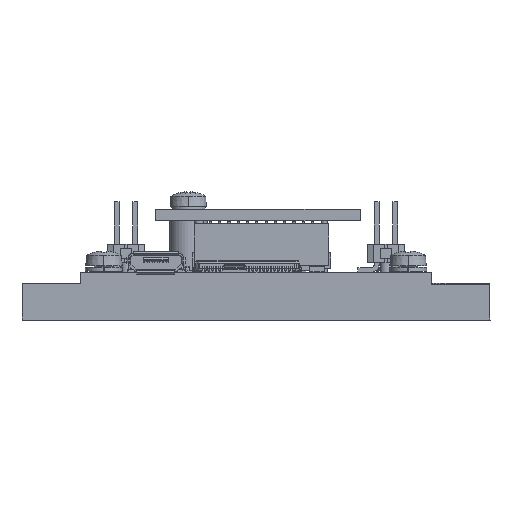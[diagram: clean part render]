
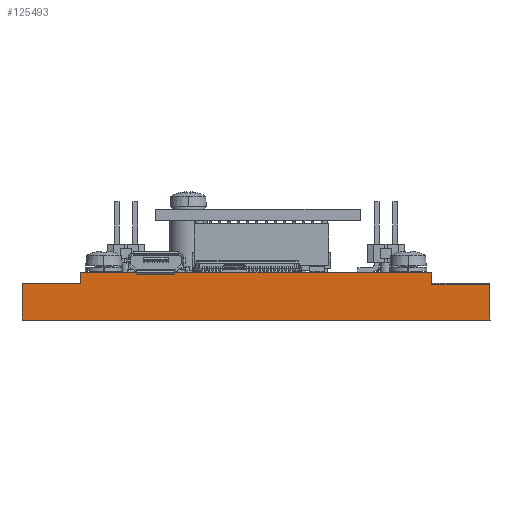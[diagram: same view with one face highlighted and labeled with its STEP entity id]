
A CAD part, front view. The second image highlights one B-rep face of the part: STEP entity #125493.
In plain terms, the highlighted planar face has unit normal (0, -1, 0).
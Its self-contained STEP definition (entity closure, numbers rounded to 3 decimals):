
#1660=DIRECTION('',(-1.,0.,0.));
#1661=VECTOR('',#1660,48.);
#1662=CARTESIAN_POINT('',(-62.976,-173.654,
-25.099));
#1663=LINE('',#1662,#1661);
#8793=DIRECTION('',(-1.,0.,0.));
#8794=VECTOR('',#8793,8.);
#8795=CARTESIAN_POINT('',(-110.976,-173.654,
-26.647));
#8796=LINE('',#8795,#8794);
#9049=DIRECTION('',(0.,0.,-1.));
#9050=VECTOR('',#9049,1.548);
#9051=CARTESIAN_POINT('',(-110.976,-173.654,
-25.099));
#9052=LINE('',#9051,#9050);
#9056=DIRECTION('',(0.,0.,-1.));
#9057=VECTOR('',#9056,4.9);
#9058=CARTESIAN_POINT('',(-54.976,-173.654,
-26.747));
#9059=LINE('',#9058,#9057);
#9063=DIRECTION('',(0.,0.,1.));
#9064=VECTOR('',#9063,1.648);
#9065=CARTESIAN_POINT('',(-62.976,-173.654,
-26.747));
#9066=LINE('',#9065,#9064);
#9961=DIRECTION('',(0.,0.,-1.));
#9962=VECTOR('',#9961,5.);
#9963=CARTESIAN_POINT('',(-118.976,-173.654,
-26.647));
#9964=LINE('',#9963,#9962);
#9996=DIRECTION('',(1.,0.,0.));
#9997=VECTOR('',#9996,64.);
#9998=CARTESIAN_POINT('',(-118.976,-173.654,
-31.647));
#9999=LINE('',#9998,#9997);
#10177=DIRECTION('',(-1.,0.,0.));
#10178=VECTOR('',#10177,8.);
#10179=CARTESIAN_POINT('',(-54.976,-173.654,
-26.747));
#10180=LINE('',#10179,#10178);
#101968=CARTESIAN_POINT('',(-54.976,-173.654,
-26.747));
#101969=CARTESIAN_POINT('',(-54.976,-173.654,
-31.647));
#101970=VERTEX_POINT('',#101968);
#101971=VERTEX_POINT('',#101969);
#101980=CARTESIAN_POINT('',(-62.976,-173.654,
-26.747));
#101981=VERTEX_POINT('',#101980);
#101982=CARTESIAN_POINT('',(-118.976,-173.654,
-31.647));
#101983=VERTEX_POINT('',#101982);
#101984=CARTESIAN_POINT('',(-118.976,-173.654,
-26.647));
#101985=VERTEX_POINT('',#101984);
#102717=CARTESIAN_POINT('',(-62.976,-173.654,
-25.099));
#102718=CARTESIAN_POINT('',(-110.976,-173.654,
-25.099));
#102719=VERTEX_POINT('',#102717);
#102720=VERTEX_POINT('',#102718);
#103101=CARTESIAN_POINT('',(-110.976,-173.654,
-26.647));
#103103=VERTEX_POINT('',#103101);
#125473=CARTESIAN_POINT('',(-54.976,-173.654,
-26.647));
#125474=DIRECTION('',(0.,1.,0.));
#125475=DIRECTION('',(0.,0.,-1.));
#125476=AXIS2_PLACEMENT_3D('',#125473,#125474,#125475);
#125477=PLANE('',#125476);
#125478=ORIENTED_EDGE('',*,*,#125384,.F.);
#125479=ORIENTED_EDGE('',*,*,#125468,.F.);
#125480=ORIENTED_EDGE('',*,*,#122808,.F.);
#125482=ORIENTED_EDGE('',*,*,#125481,.F.);
#125484=ORIENTED_EDGE('',*,*,#125483,.F.);
#125486=ORIENTED_EDGE('',*,*,#125485,.T.);
#125488=ORIENTED_EDGE('',*,*,#125487,.F.);
#125490=ORIENTED_EDGE('',*,*,#125489,.F.);
#125491=EDGE_LOOP('',(#125478,#125479,#125480,#125482,#125484,#125486,#125488,
#125490));
#125492=FACE_OUTER_BOUND('',#125491,.F.);
#125493=ADVANCED_FACE('',(#125492),#125477,.F.);
#122808=EDGE_CURVE('',#102719,#102720,#1663,.T.);
#125384=EDGE_CURVE('',#103103,#101985,#8796,.T.);
#125468=EDGE_CURVE('',#102720,#103103,#9052,.T.);
#125481=EDGE_CURVE('',#101981,#102719,#9066,.T.);
#125483=EDGE_CURVE('',#101970,#101981,#10180,.T.);
#125485=EDGE_CURVE('',#101970,#101971,#9059,.T.);
#125487=EDGE_CURVE('',#101983,#101971,#9999,.T.);
#125489=EDGE_CURVE('',#101985,#101983,#9964,.T.);
